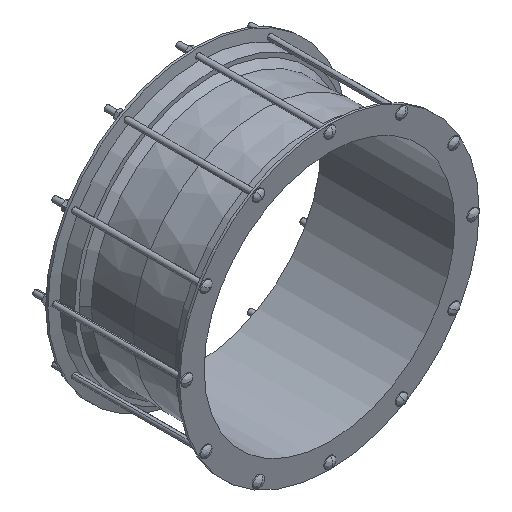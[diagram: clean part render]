
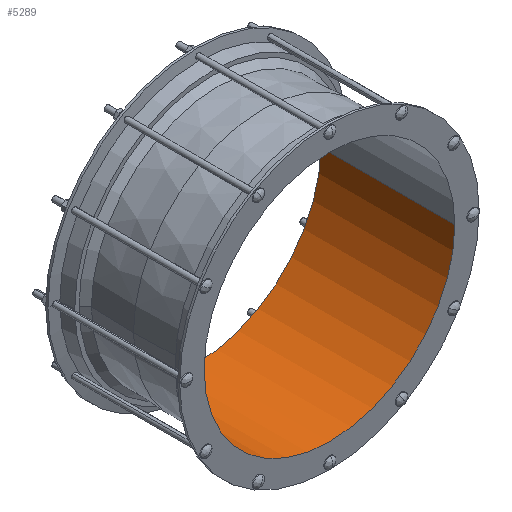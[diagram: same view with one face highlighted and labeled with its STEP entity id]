
A CAD part, isometric view. The second image highlights one B-rep face of the part: STEP entity #5289.
In plain terms, the highlighted cylindrical face has radius 282.5 mm (diameter 565 mm), a partial arc.
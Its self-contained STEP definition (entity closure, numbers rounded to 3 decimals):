
#1799=CARTESIAN_POINT('',(0.,151.,0.));
#1800=DIRECTION('',(0.,-1.,0.));
#1801=DIRECTION('',(-1.,0.,0.));
#1802=AXIS2_PLACEMENT_3D('',#1799,#1800,#1801);
#1929=CARTESIAN_POINT('',(0.,-151.,0.));
#1930=DIRECTION('',(0.,-1.,0.));
#1931=DIRECTION('',(-1.,0.,0.));
#1932=AXIS2_PLACEMENT_3D('',#1929,#1930,#1931);
#1934=DIRECTION('',(0.,1.,0.));
#1935=VECTOR('',#1934,302.);
#1936=CARTESIAN_POINT('',(-282.5,-151.,0.));
#1937=LINE('',#1936,#1935);
#1943=DIRECTION('',(0.,1.,0.));
#1944=VECTOR('',#1943,302.);
#1945=CARTESIAN_POINT('',(282.5,-151.,0.));
#1946=LINE('',#1945,#1944);
#3886=CARTESIAN_POINT('',(-282.5,-151.,0.));
#3887=CARTESIAN_POINT('',(-282.5,151.,0.));
#3888=VERTEX_POINT('',#3886);
#3889=VERTEX_POINT('',#3887);
#3904=CARTESIAN_POINT('',(282.5,-151.,0.));
#3905=CARTESIAN_POINT('',(282.5,151.,0.));
#3906=VERTEX_POINT('',#3904);
#3907=VERTEX_POINT('',#3905);
#5275=CARTESIAN_POINT('',(0.,166.1,0.));
#5276=DIRECTION('',(0.,-1.,0.));
#5277=DIRECTION('',(-1.,0.,0.));
#5278=AXIS2_PLACEMENT_3D('',#5275,#5276,#5277);
#5279=CYLINDRICAL_SURFACE('',#5278,282.5);
#5281=ORIENTED_EDGE('',*,*,#5280,.T.);
#5282=ORIENTED_EDGE('',*,*,#5197,.T.);
#5284=ORIENTED_EDGE('',*,*,#5283,.F.);
#5286=ORIENTED_EDGE('',*,*,#5285,.F.);
#5287=EDGE_LOOP('',(#5281,#5282,#5284,#5286));
#5288=FACE_OUTER_BOUND('',#5287,.F.);
#5289=ADVANCED_FACE('',(#5288),#5279,.F.);
#1803=CIRCLE('',#1802,282.5);
#1933=CIRCLE('',#1932,282.5);
#5197=EDGE_CURVE('',#3889,#3907,#1803,.T.);
#5280=EDGE_CURVE('',#3888,#3889,#1937,.T.);
#5283=EDGE_CURVE('',#3906,#3907,#1946,.T.);
#5285=EDGE_CURVE('',#3888,#3906,#1933,.T.);
